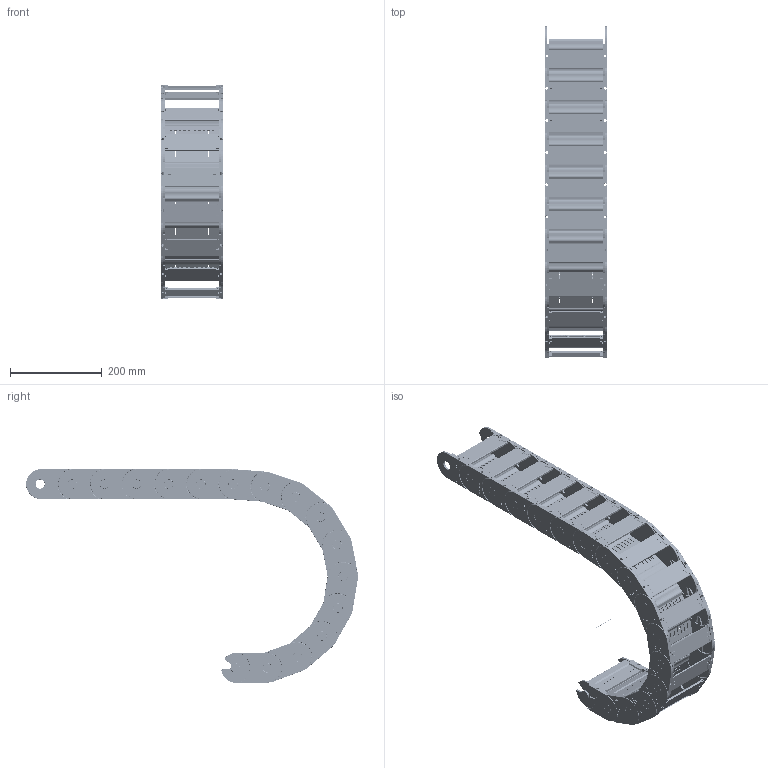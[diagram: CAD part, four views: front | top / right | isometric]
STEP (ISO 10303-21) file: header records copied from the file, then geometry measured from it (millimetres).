
FILE_DESCRIPTION((''),'2;1');
FILE_NAME('C:\Uebbing\PARAMETERKETTEN\KOLIBRI\Kol_65_135_1\Kol_65_135_1_R200.stp','2012-03-06T08:57:10',('Uebbing'),(''),'Autodesk Inventor 10','Autodesk Inventor 10','');
FILE_SCHEMA(('AUTOMOTIVE_DESIGN { 1 0 10303 214 1 1 1 1 }'));
Length unit declared in the file: millimetre
Products named in the file (5): KOLIBRI 65_135_1_PARAMETRISCH; Achse; Kol_65_135_1; Kol_65_135_5 Lasche; Kol_65_135_1 Klappsteg
Assembly tree (19 placements, depth 3):
  KOLIBRI 65_135_1_PARAMETRISCH
    Achse
    Kol_65_135_1  x16
      Kol_65_135_5 Lasche
      Kol_65_135_1 Klappsteg
Bounding box: 135 x 722.31 x 465 mm (x, y, z)
Volume: 1679292.9 mm3; surface area: 1121902 mm2
Topology: 33 solids, 33 shells, 9235 faces, 25268 edges, 16179 vertices
Faces by surface type: plane 3842, bspline 3456, cylinder 1553, torus 288, cone 64, sphere 32
Full cylindrical faces by diameter (mm): 1 x1, 2.514 x16, 4 x48, 4.414 x16, 6 x16, 20 x32
Entity records: 19750 total; most frequent: CARTESIAN_POINT 5478, ORIENTED_EDGE 3092, DIRECTION 2650, EDGE_CURVE 1546, VECTOR 1126, LINE 1126, VERTEX_POINT 1002, AXIS2_PLACEMENT_3D 762
